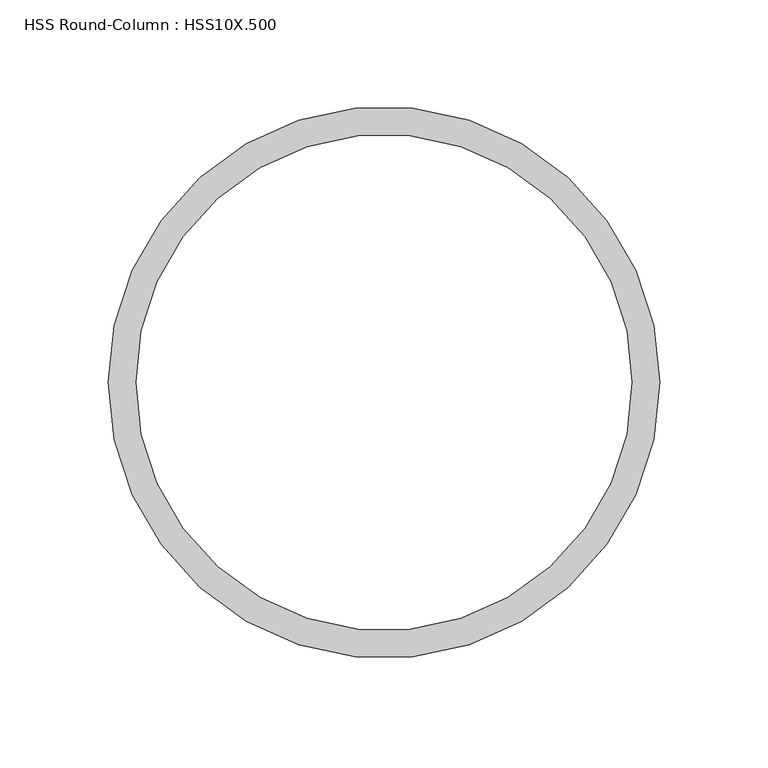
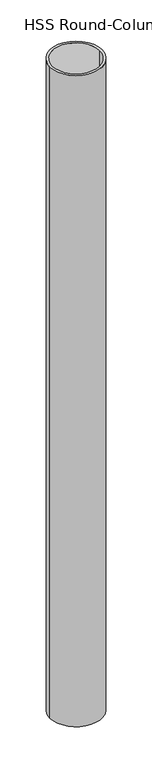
"""IFC4 building model written with IfcOpenShell, lengths in millimetres: column geometry, HSS Round-Column : HSS10X.500."""

from ifc_helpers import new_model, si_unit, point, frame, origin, origin_2d, place, context, project, spatial, circle_curve, trimmed, segment, composite_curve, outline, extrude, source, transform, mapped, element, save


def hss_round_column_hss10x_500_6a2b31e4(model_context):
    return source(origin(), model_context, "Body", "SweptSolid", [
        extrude(outline(composite_curve([segment(trimmed(circle_curve(origin_2d(), 127.0), [point((-127.0, 0.0))], [point((127.0, 0.0))], False, "CARTESIAN"), True, "CONTINUOUS"), segment(trimmed(circle_curve(origin_2d(), 127.0), [point((127.0, 0.0))], [point((-127.0, 0.0))], False, "CARTESIAN"), True, "CONTINUOUS")], self_intersect=False), holes=[composite_curve([segment(trimmed(circle_curve(origin_2d(), 114.3), [point((-114.3, 0.0))], [point((114.3, 0.0))], True, "CARTESIAN"), True, "CONTINUOUS"), segment(trimmed(circle_curve(origin_2d(), 114.3), [point((114.3, 0.0))], [point((-114.3, 0.0))], True, "CARTESIAN"), True, "CONTINUOUS")], self_intersect=False)]), frame((0.0, 0.0, 3352.8), z_axis=(0.0, 0.0, 1.0), x_axis=(1.0, 0.0, 0.0)), (0.0, 0.0, 1.0), 3352.8),
    ])


if __name__ == "__main__":
    model = new_model("IFC4")
    model_context = context("Model", 3, world=origin())
    ifc_project = project(units=[si_unit("LENGTHUNIT", "METRE", prefix="MILLI")], contexts=[model_context])
    site = spatial("IfcSite", under=ifc_project)
    building = spatial("IfcBuilding", under=site)
    placement = place(None, origin())
    hss_round_column_hss10x_500_shape = hss_round_column_hss10x_500_6a2b31e4(model_context)
    element("IfcColumn", 1, ObjectType="HSS Round-Column : HSS10X.500", at=placement, inside=building, context=model_context, shape_type="MappedRepresentation", body=[
        mapped(hss_round_column_hss10x_500_shape, transform((0.0, 0.0, 0.0), x_axis=(1.0, 0.0, 0.0), y_axis=(0.0, 1.0, 0.0), z_axis=(0.0, 0.0, 1.0))),
    ])
    save(model, "model.ifc")
